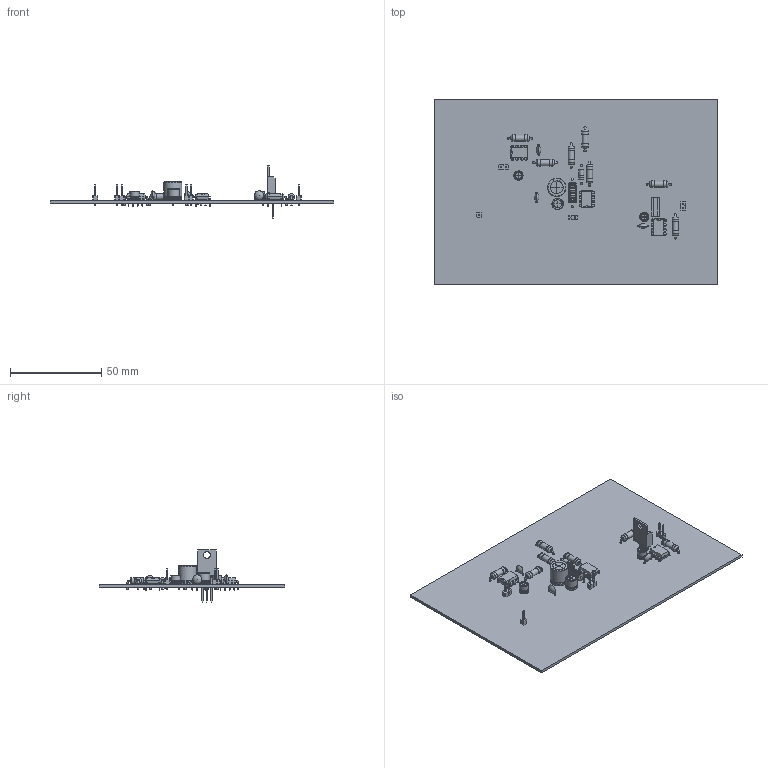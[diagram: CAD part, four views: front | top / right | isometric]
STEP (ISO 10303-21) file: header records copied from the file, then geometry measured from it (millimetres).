
FILE_DESCRIPTION(('KiCad electronic assembly'),'2;1');
FILE_NAME('.step','2026-05-25T15:26:39',('Pcbnew'),('Kicad'), 'Open CASCADE STEP processor 7.9','KiCad to STEP converter','Unknown' );
FILE_SCHEMA(('AUTOMOTIVE_DESIGN { 1 0 10303 214 1 1 1 1 }'));
Length unit declared in the file: millimetre
Products named in the file (14): .step 1; PinHeader_1x01_P2.54mm_Vertical; CP_Radial_D6.3mm_P2.50mm; L_Axial_L11.0mm_D4.5mm_P15.24mm_Horizontal_Fastron_MECC; TO-220-3_Vertical; R_Axial_DIN0411_L9.9mm_D3.6mm_P12.70mm_Horizontal; PinHeader_1x02_P2.54mm_Vertical; C_Disc_D5.0mm_W2.5mm_P5.00mm; DIP-8_W7.62mm; CP_Radial_D10.0mm_P5.00mm; CP_Radial_D5.0mm_P2.00mm; D_DO-41_SOD81_P10.16mm_Horizontal; C_Disc_D4.7mm_W2.5mm_P5.00mm; emp_PCB
Assembly tree (25 placements, depth 2):
  .step 1
    PinHeader_1x01_P2.54mm_Vertical
    CP_Radial_D6.3mm_P2.50mm
    L_Axial_L11.0mm_D4.5mm_P15.24mm_Horizontal_Fastron_MECC
    TO-220-3_Vertical
    R_Axial_DIN0411_L9.9mm_D3.6mm_P12.70mm_Horizontal  x7
    PinHeader_1x02_P2.54mm_Vertical  x3
    C_Disc_D5.0mm_W2.5mm_P5.00mm  x2
    DIP-8_W7.62mm  x3
    CP_Radial_D10.0mm_P5.00mm
    CP_Radial_D5.0mm_P2.00mm  x2
    D_DO-41_SOD81_P10.16mm_Horizontal
    C_Disc_D4.7mm_W2.5mm_P5.00mm
    emp_PCB
Bounding box: 155.72 x 101.82 x 28.52 mm (x, y, z)
Volume: 27112.1 mm3; surface area: 37190.8 mm2
Topology: 25 solids, 29 shells, 1139 faces, 2776 edges, 1747 vertices
Faces by surface type: plane 720, cylinder 255, bspline 81, torus 40, revolution 37, sphere 6
Full cylindrical faces by diameter (mm): 0.5 x18, 0.7 x6, 0.8 x68, 1 x11, 1.1 x5, 1.2 x14, 2.7 x2, 2.72 x1, 3.24 x7, 3.6 x14, 3.735 x1, 3.95 x10, 4.5 x2
Entity records: 25400 total; most frequent: CARTESIAN_POINT 7474, DIRECTION 2877, ORIENTED_EDGE 2866, EDGE_CURVE 1433, AXIS2_PLACEMENT_3D 961, LINE 925, VECTOR 925, VERTEX_POINT 911
